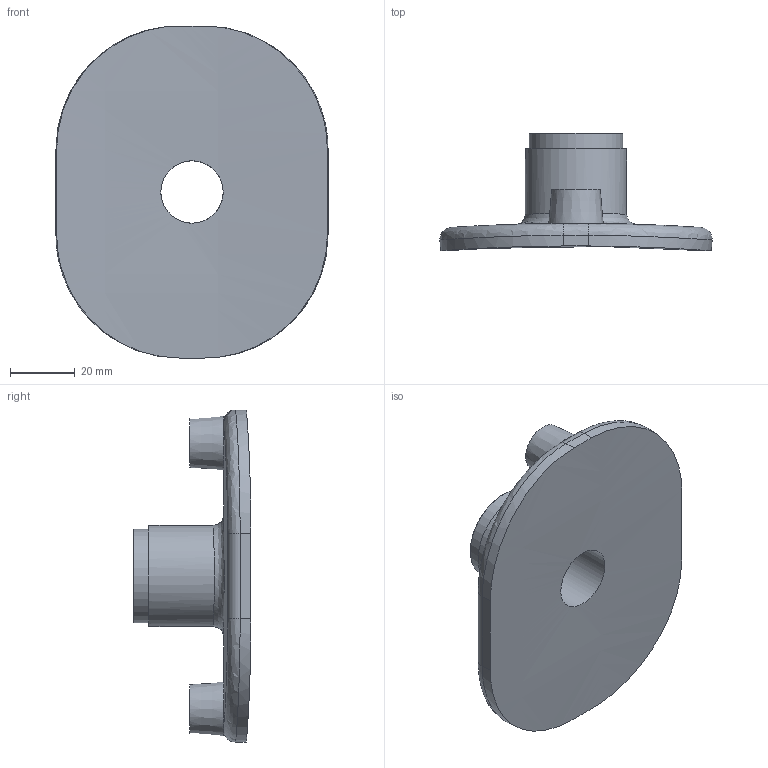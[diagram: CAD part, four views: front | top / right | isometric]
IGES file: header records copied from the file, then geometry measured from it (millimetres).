
Global section: file name: 5938S3900007.ipt; native system: Autodesk Inventor 2019; preprocessor: unknown; author: 12HКирилл; date: 20210830.101207; units: inch
Bounding box: 84.33 x 36.5 x 102.87 mm (x, y, z)
Volume: 63077.1 mm3; surface area: 22829.7 mm2
Topology: 1 solids, 1 shells, 43 faces, 93 edges, 59 vertices
Faces by surface type: plane 12, cylinder 12, revolution 11, bspline 5, cone 3
Full cylindrical faces by diameter (mm): 4 x2, 28.94 x1, 31.352 x1
